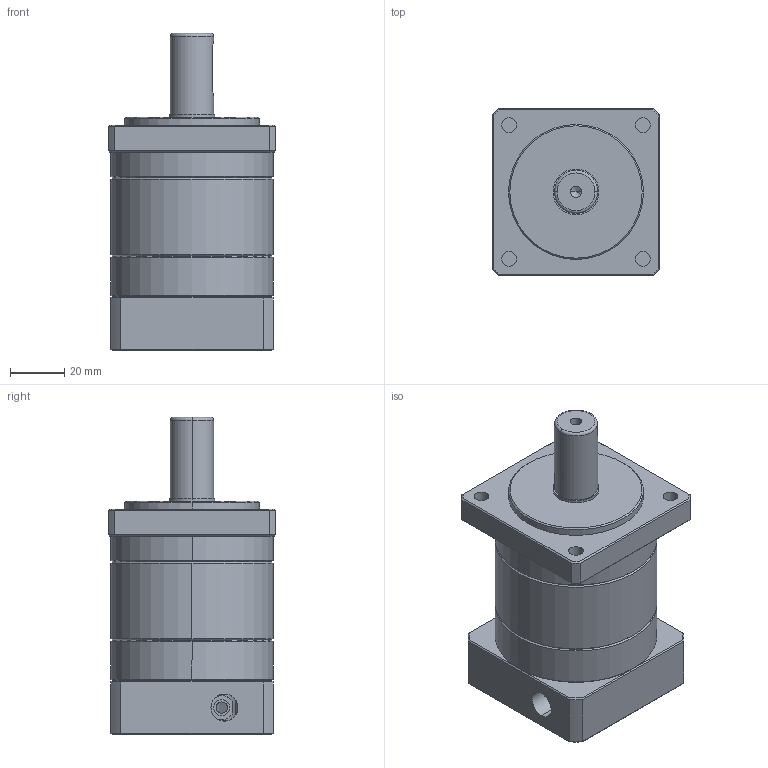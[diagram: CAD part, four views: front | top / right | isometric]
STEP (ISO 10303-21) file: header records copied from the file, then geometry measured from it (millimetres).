
FILE_DESCRIPTION (( 'STEP AP203' ), '1' );
FILE_NAME ('PX60-L1£r50£r70M5.STEP', '2019-03-18T07:48:44', ( 'KELLY' ), ( '' ), 'SwSTEP 2.0', 'SolidWorks 2012', '' );
FILE_SCHEMA (( 'CONFIG_CONTROL_DESIGN' ));
Length unit declared in the file: millimetre
Products named in the file (1): PX60-L1｣r50｣r70M5
Bounding box: 62 x 62 x 117.5 mm (x, y, z)
Volume: 236984.9 mm3; surface area: 50320.4 mm2
Topology: 3 solids, 3 shells, 172 faces, 406 edges, 244 vertices
Faces by surface type: cylinder 70, plane 56, cone 38, torus 8
Entity records: 5460 total; most frequent: CARTESIAN_POINT 1423, DIRECTION 857, ORIENTED_EDGE 792, EDGE_CURVE 396, AXIS2_PLACEMENT_3D 346, VERTEX_POINT 244, EDGE_LOOP 206, CIRCLE 173
